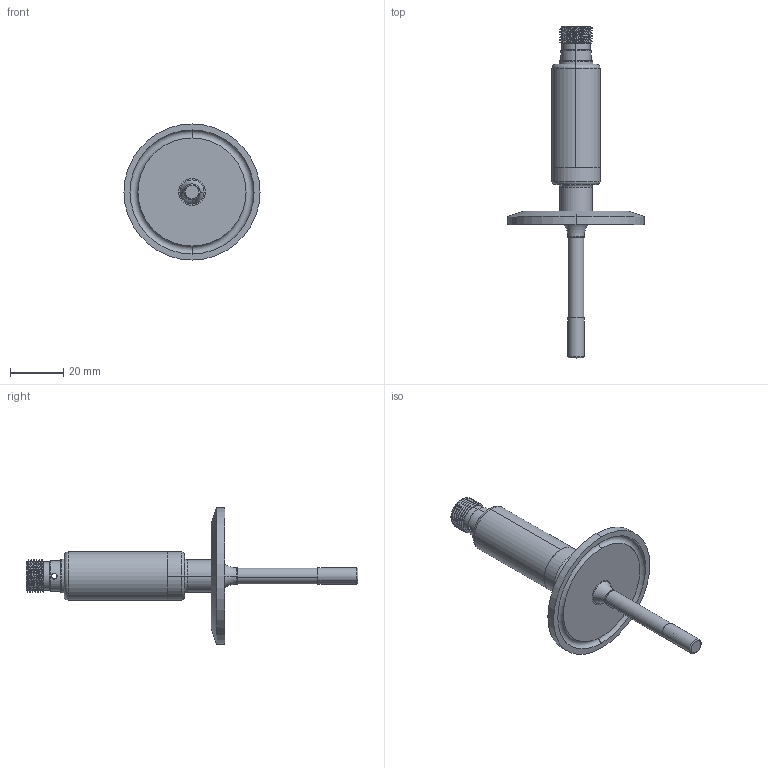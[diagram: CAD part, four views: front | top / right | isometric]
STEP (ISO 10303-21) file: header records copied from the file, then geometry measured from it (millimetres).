
FILE_DESCRIPTION (( 'STEP AP203' ), '1' );
FILE_NAME ('縐攫50.5TA恲僅L50蚾饜极.STEP', '2026-03-03T06:34:56', ( '' ), ( '' ), 'SwSTEP 2.0', 'SolidWorks 2022', '' );
FILE_SCHEMA (( 'CONFIG_CONTROL_DESIGN' ));
Length unit declared in the file: millimetre
Products named in the file (7): 50.5縐攫; 卡盘和壳体连接件; 縐攫50.5TA恲僅L50蚾饜极; 抻芛晊酗奪; 瑤脣釱褲; 褲极; 抻芛奪酗僅15
Assembly tree (6 placements, depth 2):
  縐攫50.5TA恲僅L50蚾饜极
    50.5縐攫
    卡盘和壳体连接件
    抻芛晊酗奪
    褲极
    瑤脣釱褲
    抻芛奪酗僅15
Bounding box: 51 x 124.4 x 51 mm (x, y, z)
Volume: 12411.4 mm3; surface area: 14469.3 mm2
Topology: 6 solids, 6 shells, 128 faces, 275 edges, 174 vertices
Faces by surface type: cylinder 68, plane 29, torus 20, cone 8, bspline 3
Entity records: 5589 total; most frequent: CARTESIAN_POINT 2031, DIRECTION 650, ORIENTED_EDGE 550, AXIS2_PLACEMENT_3D 286, EDGE_CURVE 275, VERTEX_POINT 174, EDGE_LOOP 157, CIRCLE 152
